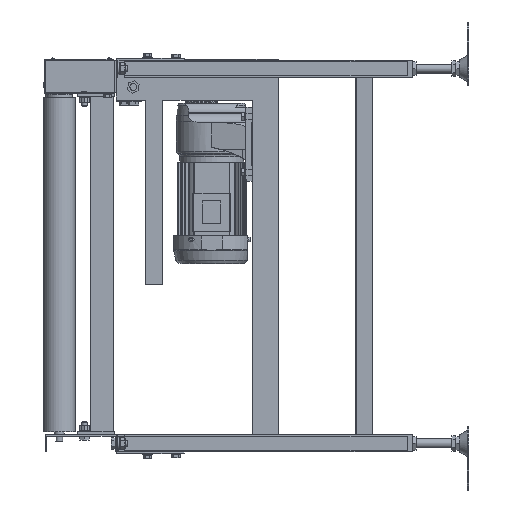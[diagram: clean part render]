
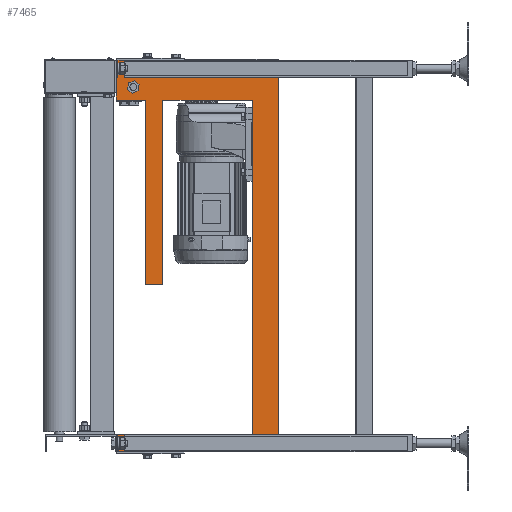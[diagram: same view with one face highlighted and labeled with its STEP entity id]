
A CAD part, left-side view. The second image highlights one B-rep face of the part: STEP entity #7465.
In plain terms, the highlighted planar face has unit normal (-1, 0, 0).
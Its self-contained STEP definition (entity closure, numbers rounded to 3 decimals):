
#7465=ADVANCED_FACE('',(#41028,#41029),#41027,.T.);
#41027=PLANE('',#61175);
#41028=FACE_OUTER_BOUND('',#61176,.T.);
#41029=FACE_BOUND('',#61177,.T.);
#61172=CARTESIAN_POINT('',(2400.,-424.,356.6));
#61173=DIRECTION('',(-1.,0.,0.));
#61174=DIRECTION('',(0.,1.,0.));
#61175=AXIS2_PLACEMENT_3D('',#61172,#61173,#61174);
#61176=EDGE_LOOP('',(#79121,#79122,#79123,#79124,#79125,#79126,#79127,#79128,#79129,#79130,#79131,#79132,#79133,#79134));
#61177=EDGE_LOOP('',(#79135,#79136,#79137,#79138,#79139,#79140));
#79121=ORIENTED_EDGE('',*,*,#88611,.T.);
#79122=ORIENTED_EDGE('',*,*,#88612,.T.);
#79123=ORIENTED_EDGE('',*,*,#88613,.F.);
#79124=ORIENTED_EDGE('',*,*,#88614,.T.);
#79125=ORIENTED_EDGE('',*,*,#88615,.F.);
#79126=ORIENTED_EDGE('',*,*,#88616,.F.);
#79127=ORIENTED_EDGE('',*,*,#88617,.T.);
#79128=ORIENTED_EDGE('',*,*,#88618,.T.);
#79129=ORIENTED_EDGE('',*,*,#88619,.T.);
#79130=ORIENTED_EDGE('',*,*,#88620,.F.);
#79131=ORIENTED_EDGE('',*,*,#88621,.T.);
#79132=ORIENTED_EDGE('',*,*,#88622,.T.);
#79133=ORIENTED_EDGE('',*,*,#88610,.T.);
#79134=ORIENTED_EDGE('',*,*,#88623,.F.);
#79135=ORIENTED_EDGE('',*,*,#88624,.F.);
#79136=ORIENTED_EDGE('',*,*,#88625,.F.);
#79137=ORIENTED_EDGE('',*,*,#88626,.F.);
#79138=ORIENTED_EDGE('',*,*,#88627,.F.);
#79139=ORIENTED_EDGE('',*,*,#88628,.F.);
#79140=ORIENTED_EDGE('',*,*,#88629,.F.);
#88610=EDGE_CURVE('',#145010,#145024,#145031,.T.);
#88611=EDGE_CURVE('',#145037,#145038,#145039,.T.);
#88612=EDGE_CURVE('',#145038,#145045,#145046,.T.);
#88613=EDGE_CURVE('',#145052,#145045,#145053,.T.);
#88614=EDGE_CURVE('',#145052,#145059,#145060,.T.);
#88615=EDGE_CURVE('',#145066,#145059,#145067,.T.);
#88616=EDGE_CURVE('',#145073,#145066,#145074,.T.);
#88617=EDGE_CURVE('',#145073,#145080,#145081,.T.);
#88618=EDGE_CURVE('',#145080,#145087,#145088,.T.);
#88619=EDGE_CURVE('',#145087,#145094,#145095,.T.);
#88620=EDGE_CURVE('',#145101,#145094,#145102,.T.);
#88621=EDGE_CURVE('',#145101,#145108,#145109,.T.);
#88622=EDGE_CURVE('',#145108,#145010,#145115,.T.);
#88623=EDGE_CURVE('',#145037,#145024,#145121,.T.);
#88624=EDGE_CURVE('',#145127,#145128,#145129,.T.);
#88625=EDGE_CURVE('',#145135,#145127,#145136,.T.);
#88626=EDGE_CURVE('',#145142,#145135,#145143,.T.);
#88627=EDGE_CURVE('',#145149,#145142,#145150,.T.);
#88628=EDGE_CURVE('',#145156,#145149,#145157,.T.);
#88629=EDGE_CURVE('',#145128,#145156,#145163,.T.);
#145010=VERTEX_POINT('',#183397);
#145024=VERTEX_POINT('',#183405);
#145031=LINE('',#183409,#183410);
#145037=VERTEX_POINT('',#183412);
#145038=VERTEX_POINT('',#183413);
#145039=LINE('',#183414,#183415);
#145045=VERTEX_POINT('',#183417);
#145046=LINE('',#183418,#183419);
#145052=VERTEX_POINT('',#183421);
#145053=LINE('',#183422,#183423);
#145059=VERTEX_POINT('',#183425);
#145060=LINE('',#183426,#183427);
#145066=VERTEX_POINT('',#183429);
#145067=LINE('',#183430,#183431);
#145073=VERTEX_POINT('',#183433);
#145074=LINE('',#183434,#183435);
#145080=VERTEX_POINT('',#183437);
#145081=LINE('',#183438,#183439);
#145087=VERTEX_POINT('',#183441);
#145088=LINE('',#183442,#183443);
#145094=VERTEX_POINT('',#183445);
#145095=LINE('',#183446,#183447);
#145101=VERTEX_POINT('',#183449);
#145102=LINE('',#183450,#183451);
#145108=VERTEX_POINT('',#183453);
#145109=LINE('',#183454,#183455);
#145115=LINE('',#183457,#183458);
#145121=LINE('',#183460,#183461);
#145127=VERTEX_POINT('',#183463);
#145128=VERTEX_POINT('',#183464);
#145129=LINE('',#183465,#183466);
#145135=VERTEX_POINT('',#183468);
#145136=LINE('',#183469,#183470);
#145142=VERTEX_POINT('',#183472);
#145143=LINE('',#183473,#183474);
#145149=VERTEX_POINT('',#183476);
#145150=LINE('',#183477,#183478);
#145156=VERTEX_POINT('',#183480);
#145157=LINE('',#183481,#183482);
#145163=LINE('',#183484,#183485);
#183397=CARTESIAN_POINT('',(2400.,-181.,274.5));
#183405=CARTESIAN_POINT('',(2400.,-181.,-50.5));
#183409=CARTESIAN_POINT('',(2400.,-181.,274.5));
#183410=VECTOR('',#183411,325.);
#183411=DIRECTION('',(0.,0.,-1.));
#183412=CARTESIAN_POINT('',(2400.,-211.,-50.5));
#183413=CARTESIAN_POINT('',(2400.,-211.,274.5));
#183414=CARTESIAN_POINT('',(2400.,-211.,-50.5));
#183415=VECTOR('',#183416,325.);
#183416=DIRECTION('',(0.,0.,1.));
#183417=CARTESIAN_POINT('',(2400.,-369.,274.5));
#183418=CARTESIAN_POINT('',(2400.,-211.,274.5));
#183419=VECTOR('',#183420,158.);
#183420=DIRECTION('',(0.,-1.,0.));
#183421=CARTESIAN_POINT('',(2400.,-369.,-315.));
#183422=CARTESIAN_POINT('',(2400.,-369.,-315.));
#183423=VECTOR('',#183424,589.5);
#183424=DIRECTION('',(0.,0.,1.));
#183425=CARTESIAN_POINT('',(2400.,-129.,-315.));
#183426=CARTESIAN_POINT('',(2400.,-369.,-315.));
#183427=VECTOR('',#183428,240.);
#183428=DIRECTION('',(0.,1.,0.));
#183429=CARTESIAN_POINT('',(2400.,-129.,-345.));
#183430=CARTESIAN_POINT('',(2400.,-129.,-345.));
#183431=VECTOR('',#183432,30.);
#183432=DIRECTION('',(0.,0.,1.));
#183433=CARTESIAN_POINT('',(2400.,-414.,-345.));
#183434=CARTESIAN_POINT('',(2400.,-414.,-345.));
#183435=VECTOR('',#183436,285.);
#183436=DIRECTION('',(0.,1.,0.));
#183437=CARTESIAN_POINT('',(2400.,-414.,331.6));
#183438=CARTESIAN_POINT('',(2400.,-414.,-345.));
#183439=VECTOR('',#183440,676.6);
#183440=DIRECTION('',(0.,0.,1.));
#183441=CARTESIAN_POINT('',(2400.,-180.,331.6));
#183442=CARTESIAN_POINT('',(2400.,-414.,331.6));
#183443=VECTOR('',#183444,234.);
#183444=DIRECTION('',(0.,1.,0.));
#183445=CARTESIAN_POINT('',(2400.,-180.,346.6));
#183446=CARTESIAN_POINT('',(2400.,-180.,331.6));
#183447=VECTOR('',#183448,15.);
#183448=DIRECTION('',(0.,0.,1.));
#183449=CARTESIAN_POINT('',(2400.,-129.,346.6));
#183450=CARTESIAN_POINT('',(2400.,-129.,346.6));
#183451=VECTOR('',#183452,51.);
#183452=DIRECTION('',(0.,-1.,0.));
#183453=CARTESIAN_POINT('',(2400.,-129.,274.5));
#183454=CARTESIAN_POINT('',(2400.,-129.,346.6));
#183455=VECTOR('',#183456,72.1);
#183456=DIRECTION('',(0.,0.,-1.));
#183457=CARTESIAN_POINT('',(2400.,-129.,274.5));
#183458=VECTOR('',#183459,52.);
#183459=DIRECTION('',(0.,-1.,0.));
#183460=CARTESIAN_POINT('',(2400.,-211.,-50.5));
#183461=VECTOR('',#183462,30.);
#183462=DIRECTION('',(0.,1.,0.));
#183463=CARTESIAN_POINT('',(2400.,-148.698,293.932));
#183464=CARTESIAN_POINT('',(2400.,-157.112,286.894));
#183465=CARTESIAN_POINT('',(2400.,-148.698,293.932));
#183466=VECTOR('',#183467,10.97);
#183467=DIRECTION('',(0.,-0.767,-0.642));
#183468=CARTESIAN_POINT('',(2400.,-150.585,304.738));
#183469=CARTESIAN_POINT('',(2400.,-150.585,304.738));
#183470=VECTOR('',#183471,10.97);
#183471=DIRECTION('',(0.,0.172,-0.985));
#183472=CARTESIAN_POINT('',(2400.,-160.888,308.506));
#183473=CARTESIAN_POINT('',(2400.,-160.888,308.506));
#183474=VECTOR('',#183475,10.97);
#183475=DIRECTION('',(0.,0.939,-0.344));
#183476=CARTESIAN_POINT('',(2400.,-169.302,301.468));
#183477=CARTESIAN_POINT('',(2400.,-169.302,301.468));
#183478=VECTOR('',#183479,10.97);
#183479=DIRECTION('',(0.,0.767,0.642));
#183480=CARTESIAN_POINT('',(2400.,-167.415,290.662));
#183481=CARTESIAN_POINT('',(2400.,-167.415,290.662));
#183482=VECTOR('',#183483,10.97);
#183483=DIRECTION('',(0.,-0.172,0.985));
#183484=CARTESIAN_POINT('',(2400.,-157.112,286.894));
#183485=VECTOR('',#183486,10.97);
#183486=DIRECTION('',(0.,-0.939,0.344));
